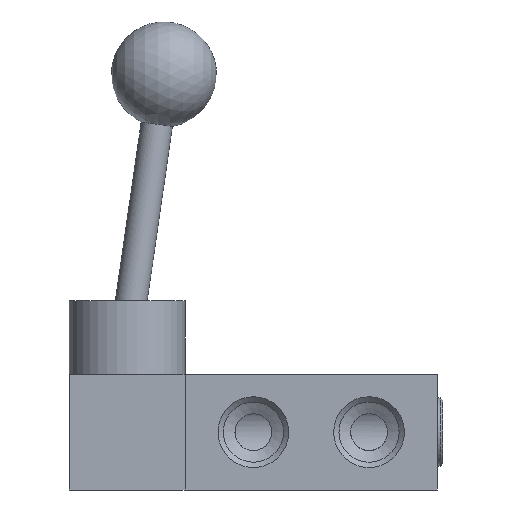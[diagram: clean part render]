
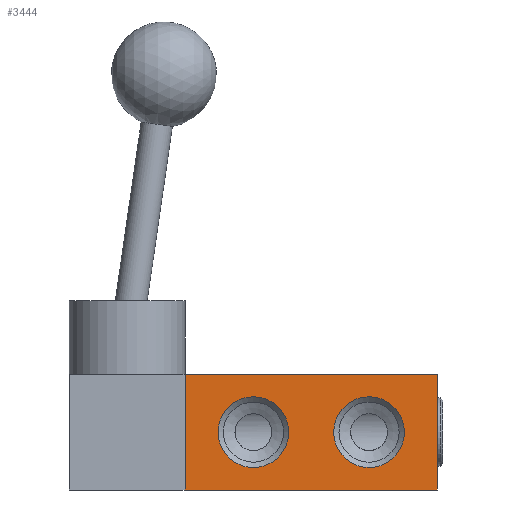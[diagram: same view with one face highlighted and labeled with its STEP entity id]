
A CAD part, front view. The second image highlights one B-rep face of the part: STEP entity #3444.
In plain terms, the highlighted planar face has unit normal (0, -1, 0).
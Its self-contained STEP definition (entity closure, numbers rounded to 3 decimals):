
#314=LINE('',#6544,#599);
#316=LINE('',#6574,#601);
#323=LINE('',#6683,#608);
#334=LINE('',#6783,#619);
#599=VECTOR('',#5712,1000.);
#601=VECTOR('',#5744,1000.);
#608=VECTOR('',#5757,1000.);
#619=VECTOR('',#5788,1000.);
#1258=ORIENTED_EDGE('',*,*,#1980,.T.);
#1259=ORIENTED_EDGE('',*,*,#1981,.T.);
#1260=ORIENTED_EDGE('',*,*,#1955,.T.);
#1261=ORIENTED_EDGE('',*,*,#1922,.T.);
#1262=ORIENTED_EDGE('',*,*,#1982,.F.);
#1263=ORIENTED_EDGE('',*,*,#1935,.F.);
#1922=EDGE_CURVE('',#2328,#2331,#314,.T.);
#1935=EDGE_CURVE('',#2344,#2345,#316,.T.);
#1955=EDGE_CURVE('',#2344,#2328,#323,.T.);
#1980=EDGE_CURVE('',#2386,#2386,#2579,.F.);
#1981=EDGE_CURVE('',#2387,#2387,#2580,.F.);
#1982=EDGE_CURVE('',#2345,#2331,#334,.T.);
#2328=VERTEX_POINT('',#6538);
#2331=VERTEX_POINT('',#6543);
#2344=VERTEX_POINT('',#6573);
#2345=VERTEX_POINT('',#6575);
#2386=VERTEX_POINT('',#6780);
#2387=VERTEX_POINT('',#6782);
#2579=CIRCLE('',#5161,6.723);
#2580=CIRCLE('',#5162,6.723);
#2771=EDGE_LOOP('',(#1258));
#2772=EDGE_LOOP('',(#1259));
#2773=EDGE_LOOP('',(#1260,#1261,#1262,#1263));
#3083=FACE_BOUND('',#2771,.T.);
#3084=FACE_BOUND('',#2772,.T.);
#3085=FACE_BOUND('',#2773,.T.);
#3306=PLANE('',#5160);
#3444=ADVANCED_FACE('',(#3083,#3084,#3085),#3306,.T.);
#5160=AXIS2_PLACEMENT_3D('',#6778,#5782,#5783);
#5161=AXIS2_PLACEMENT_3D('',#6779,#5784,#5785);
#5162=AXIS2_PLACEMENT_3D('',#6781,#5786,#5787);
#5712=DIRECTION('',(0.,0.,1.));
#5744=DIRECTION('',(0.,0.,1.));
#5757=DIRECTION('',(1.,0.,0.));
#5782=DIRECTION('',(0.,-1.,0.));
#5783=DIRECTION('',(1.,0.,0.));
#5784=DIRECTION('',(0.,-1.,0.));
#5785=DIRECTION('',(0.,0.,-1.));
#5786=DIRECTION('',(0.,-1.,0.));
#5787=DIRECTION('',(0.,0.,-1.));
#5788=DIRECTION('',(1.,0.,0.));
#6538=CARTESIAN_POINT('',(0.,-20.,-11.));
#6543=CARTESIAN_POINT('',(0.,-20.,11.));
#6544=CARTESIAN_POINT('',(0.,-20.,-11.));
#6573=CARTESIAN_POINT('',(-48.,-20.,-11.));
#6574=CARTESIAN_POINT('',(-48.,-20.,-11.));
#6575=CARTESIAN_POINT('',(-48.,-20.,11.));
#6683=CARTESIAN_POINT('',(-48.,-20.,-11.));
#6778=CARTESIAN_POINT('',(-48.,-20.,-11.));
#6779=CARTESIAN_POINT('',(-13.,-20.,0.));
#6780=CARTESIAN_POINT('',(-13.,-20.,-6.723));
#6781=CARTESIAN_POINT('',(-35.,-20.,0.));
#6782=CARTESIAN_POINT('',(-35.,-20.,-6.723));
#6783=CARTESIAN_POINT('',(-48.,-20.,11.));
